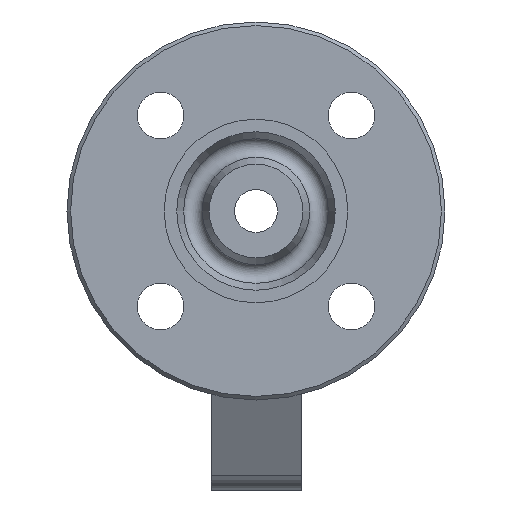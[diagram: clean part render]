
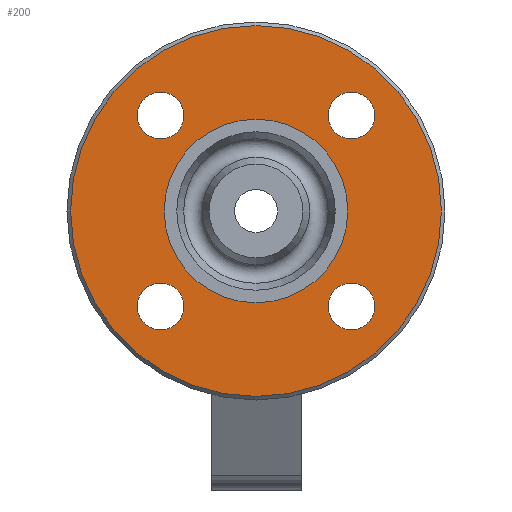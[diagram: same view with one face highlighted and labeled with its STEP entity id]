
A CAD part, left-side view. The second image highlights one B-rep face of the part: STEP entity #200.
In plain terms, the highlighted planar face has unit normal (-1, 0, 0).
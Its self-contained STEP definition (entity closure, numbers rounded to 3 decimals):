
#200=ADVANCED_FACE('',(#1577,#1579,#1581,#1583,#1585,#1587),#1589,.T.);
#1577=FACE_BOUND('',#1578,.T.);
#1578=EDGE_LOOP('',(#2437));
#1579=FACE_BOUND('',#1580,.T.);
#1580=EDGE_LOOP('',(#2438));
#1581=FACE_BOUND('',#1582,.T.);
#1582=EDGE_LOOP('',(#2439));
#1583=FACE_BOUND('',#1584,.T.);
#1584=EDGE_LOOP('',(#2440));
#1585=FACE_BOUND('',#1586,.T.);
#1586=EDGE_LOOP('',(#2441));
#1587=FACE_OUTER_BOUND('',#1588,.T.);
#1588=EDGE_LOOP('',(#2442));
#1589=PLANE('',#1590);
#1590=AXIS2_PLACEMENT_3D('',#1591,#1592,#1593);
#1591=CARTESIAN_POINT('',(-52.,0.,0.));
#1592=DIRECTION('',(-1.,0.,0.));
#1593=DIRECTION('',(0.,1.,0.));
#2437=ORIENTED_EDGE('',*,*,#3322,.T.);
#2438=ORIENTED_EDGE('',*,*,#3325,.T.);
#2439=ORIENTED_EDGE('',*,*,#3327,.T.);
#2440=ORIENTED_EDGE('',*,*,#3329,.T.);
#2441=ORIENTED_EDGE('',*,*,#3337,.T.);
#2442=ORIENTED_EDGE('',*,*,#3338,.F.);
#3322=EDGE_CURVE('',#3745,#3745,#3746,.F.);
#3325=EDGE_CURVE('',#3748,#3748,#3750,.F.);
#3327=EDGE_CURVE('',#3751,#3751,#3753,.F.);
#3329=EDGE_CURVE('',#3754,#3754,#3756,.F.);
#3337=EDGE_CURVE('',#3768,#3768,#3769,.T.);
#3338=EDGE_CURVE('',#3770,#3770,#3771,.T.);
#3745=VERTEX_POINT('',#5180);
#3746=CIRCLE('',#5181,6.5);
#3748=VERTEX_POINT('',#5188);
#3750=CIRCLE('',#5192,6.5);
#3751=VERTEX_POINT('',#5196);
#3753=CIRCLE('',#5200,6.5);
#3754=VERTEX_POINT('',#5204);
#3756=CIRCLE('',#5208,6.5);
#3768=VERTEX_POINT('',#5241);
#3769=CIRCLE('',#5242,25.5);
#3770=VERTEX_POINT('',#5246);
#3771=CIRCLE('',#5247,51.5);
#5180=CARTESIAN_POINT('',(-52.,-26.517,-33.017));
#5181=AXIS2_PLACEMENT_3D('',#5182,#5183,#5184);
#5182=CARTESIAN_POINT('',(-52.,-26.517,-26.517));
#5183=DIRECTION('',(-1.,0.,0.));
#5184=DIRECTION('',(0.,0.,-1.));
#5188=CARTESIAN_POINT('',(-52.,-33.017,26.517));
#5192=AXIS2_PLACEMENT_3D('',#5193,#5194,#5195);
#5193=CARTESIAN_POINT('',(-52.,-26.517,26.517));
#5194=DIRECTION('',(-1.,0.,0.));
#5195=DIRECTION('',(0.,-1.,-0.));
#5196=CARTESIAN_POINT('',(-52.,26.517,33.017));
#5200=AXIS2_PLACEMENT_3D('',#5201,#5202,#5203);
#5201=CARTESIAN_POINT('',(-52.,26.517,26.517));
#5202=DIRECTION('',(-1.,0.,0.));
#5203=DIRECTION('',(0.,0.,1.));
#5204=CARTESIAN_POINT('',(-52.,33.017,-26.517));
#5208=AXIS2_PLACEMENT_3D('',#5209,#5210,#5211);
#5209=CARTESIAN_POINT('',(-52.,26.517,-26.517));
#5210=DIRECTION('',(-1.,0.,0.));
#5211=DIRECTION('',(0.,1.,0.));
#5241=CARTESIAN_POINT('',(-52.,25.5,0.));
#5242=AXIS2_PLACEMENT_3D('',#5243,#5244,#5245);
#5243=CARTESIAN_POINT('',(-52.,0.,0.));
#5244=DIRECTION('',(1.,-0.,-0.));
#5245=DIRECTION('',(0.,1.,0.));
#5246=CARTESIAN_POINT('',(-52.,51.5,0.));
#5247=AXIS2_PLACEMENT_3D('',#5248,#5249,#5250);
#5248=CARTESIAN_POINT('',(-52.,0.,0.));
#5249=DIRECTION('',(1.,-0.,-0.));
#5250=DIRECTION('',(0.,1.,0.));
